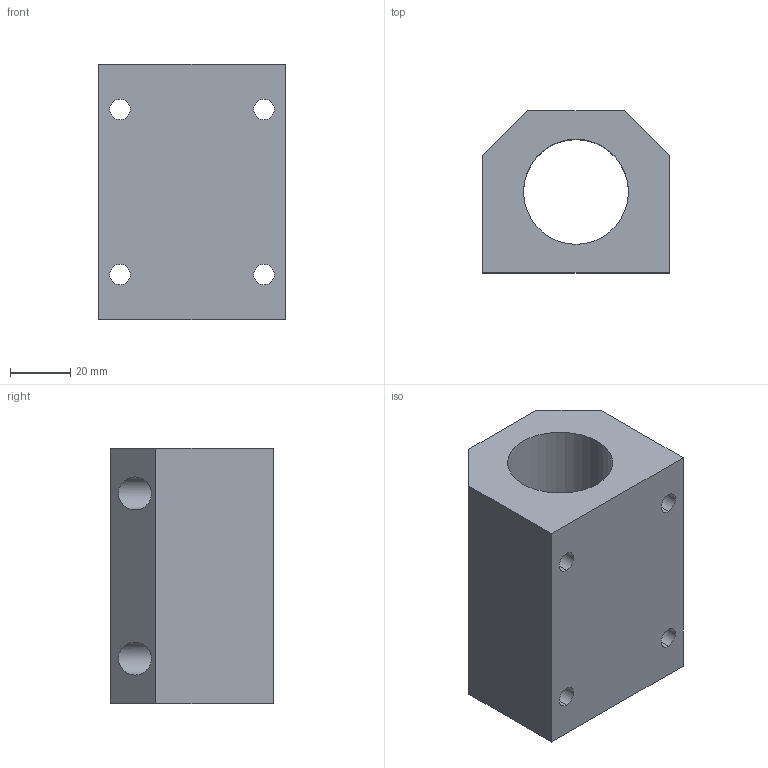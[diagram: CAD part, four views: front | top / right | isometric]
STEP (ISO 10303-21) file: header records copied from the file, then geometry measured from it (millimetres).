
FILE_DESCRIPTION (( 'STEP AP203' ), '1' );
FILE_NAME ('KTGC29-25.SLDPRT.step', '2020-05-14T11:12:05', ( '' ), ( '' ), 'SwSTEP 2.0', 'SolidWorks 2019', '' );
FILE_SCHEMA (( 'CONFIG_CONTROL_DESIGN' ));
Length unit declared in the file: millimetre
Products named in the file (2): KTGC29-25.SLDPRT
Bounding box: 62 x 54 x 85 mm (x, y, z)
Volume: 171648.3 mm3; surface area: 36719.4 mm2
Topology: 1 solids, 1 shells, 32 faces, 78 edges, 52 vertices
Faces by surface type: cylinder 20, plane 12
Entity records: 1191 total; most frequent: CARTESIAN_POINT 252, DIRECTION 166, ORIENTED_EDGE 156, EDGE_CURVE 78, AXIS2_PLACEMENT_3D 64, VERTEX_POINT 52, EDGE_LOOP 48, VECTOR 38
